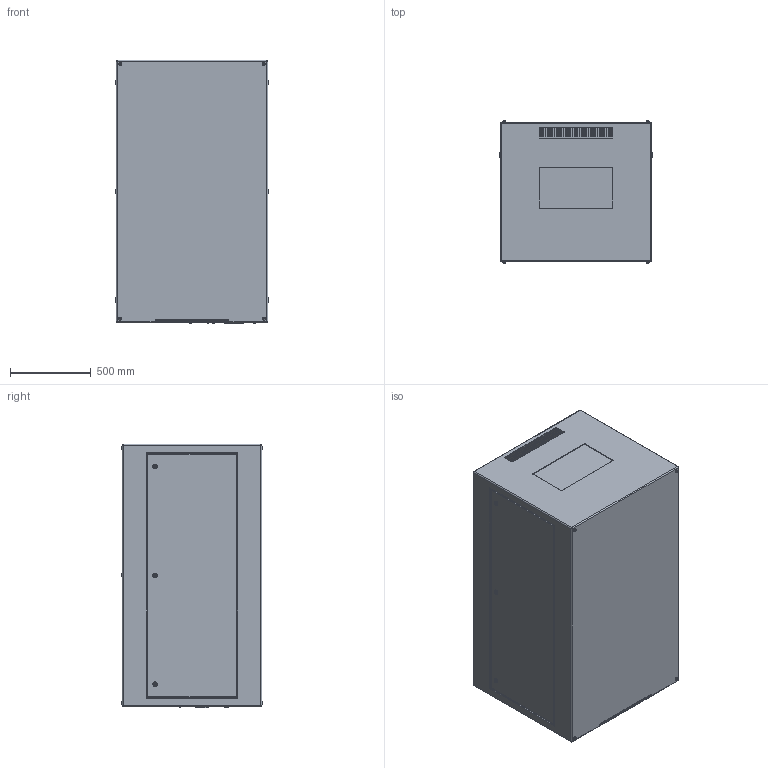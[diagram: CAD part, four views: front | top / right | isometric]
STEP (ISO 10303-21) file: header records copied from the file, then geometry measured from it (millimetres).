
FILE_DESCRIPTION (( 'STEP AP214' ), '1' );
FILE_NAME ('Zen 57.525.L R11.STEP', '2022-09-15T21:18:46', ( '' ), ( '' ), 'SwSTEP 2.0', 'SolidWorks 2020', '' );
FILE_SCHEMA (( 'AUTOMOTIVE_DESIGN' ));
Length unit declared in the file: inch
Products named in the file (1): Zen 57.525.L R11
Bounding box: 952.5 x 878.26 x 1633.22 mm (x, y, z)
Volume: 1317685821.1 mm3; surface area: 7904672.4 mm2
Topology: 1 solids, 7 shells, 1134 faces, 2856 edges, 1758 vertices
Faces by surface type: plane 518, cylinder 490, sphere 74, torus 52
Entity records: 37560 total; most frequent: CARTESIAN_POINT 6275, DIRECTION 5988, ORIENTED_EDGE 5564, EDGE_CURVE 2782, AXIS2_PLACEMENT_3D 2167, VERTEX_POINT 1758, VECTOR 1654, LINE 1654
